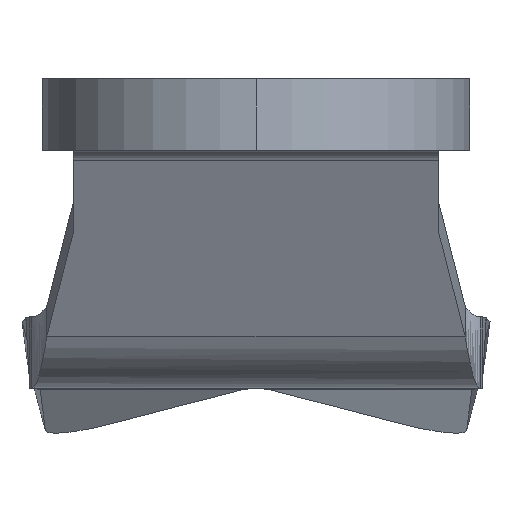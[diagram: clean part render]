
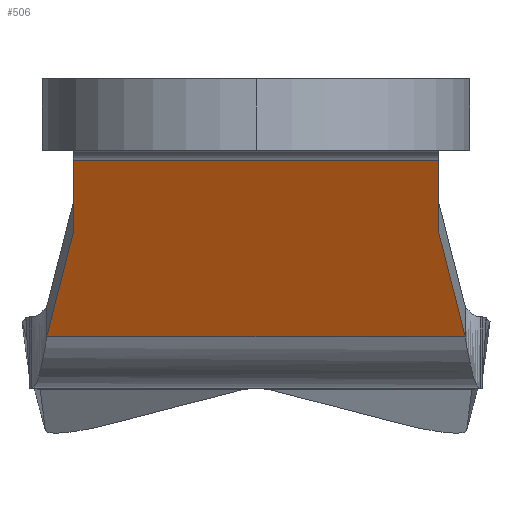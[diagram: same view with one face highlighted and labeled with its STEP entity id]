
A CAD part, left-side view. The second image highlights one B-rep face of the part: STEP entity #506.
In plain terms, the highlighted planar face has unit normal (-0.906, 0, -0.423).
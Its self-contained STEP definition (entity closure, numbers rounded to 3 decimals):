
#374 = VERTEX_POINT ( 'NONE', #1204 ) ;
#409 = EDGE_CURVE ( 'NONE', #410, #374, #1278, .T. ) ;
#410 = VERTEX_POINT ( 'NONE', #1274 ) ;
#414 = VERTEX_POINT ( 'NONE', #1263 ) ;
#450 = EDGE_CURVE ( 'NONE', #526, #478, #1350, .T. ) ;
#451 = EDGE_LOOP ( 'NONE', ( #507, #508, #511, #513, #514, #515 ) ) ;
#477 = EDGE_CURVE ( 'NONE', #478, #414, #1367, .T. ) ;
#478 = VERTEX_POINT ( 'NONE', #1360 ) ;
#481 = EDGE_CURVE ( 'NONE', #414, #374, #1359, .T. ) ;
#506 = ADVANCED_FACE ( 'NONE', ( #1427 ), #1410, .F. ) ;
#507 = ORIENTED_EDGE ( 'NONE', *, *, #450, .F. ) ;
#508 = ORIENTED_EDGE ( 'NONE', *, *, #509, .T. ) ;
#509 = EDGE_CURVE ( 'NONE', #526, #510, #1455, .T. ) ;
#510 = VERTEX_POINT ( 'NONE', #1451 ) ;
#511 = ORIENTED_EDGE ( 'NONE', *, *, #512, .F. ) ;
#512 = EDGE_CURVE ( 'NONE', #410, #510, #1450, .T. ) ;
#513 = ORIENTED_EDGE ( 'NONE', *, *, #409, .T. ) ;
#514 = ORIENTED_EDGE ( 'NONE', *, *, #481, .F. ) ;
#515 = ORIENTED_EDGE ( 'NONE', *, *, #477, .F. ) ;
#526 = VERTEX_POINT ( 'NONE', #1434 ) ;
#1204 = CARTESIAN_POINT ( 'NONE',  ( 14.768, -7.684, -0.425 ) ) ;
#1263 = CARTESIAN_POINT ( 'NONE',  ( 14.768, 7.684, -0.425 ) ) ;
#1274 = CARTESIAN_POINT ( 'NONE',  ( 16.203, -7.684, -3.503 ) ) ;
#1275 = DIRECTION ( 'NONE',  ( -0.423, 0., 0.906 ) ) ;
#1276 = VECTOR ( 'NONE', #1275, 1000. ) ;
#1277 = CARTESIAN_POINT ( 'NONE',  ( 16.203, -7.684, -3.503 ) ) ;
#1278 = LINE ( 'NONE', #1277, #1276 ) ;
#1347 = DIRECTION ( 'NONE',  ( -0.412, -0.225, 0.883 ) ) ;
#1348 = VECTOR ( 'NONE', #1347, 1000. ) ;
#1349 = CARTESIAN_POINT ( 'NONE',  ( 15.421, 7.256, -1.826 ) ) ;
#1350 = LINE ( 'NONE', #1349, #1348 ) ;
#1356 = DIRECTION ( 'NONE',  ( 0., -1., 0. ) ) ;
#1357 = VECTOR ( 'NONE', #1356, 1000. ) ;
#1358 = CARTESIAN_POINT ( 'NONE',  ( 14.768, 0., -0.425 ) ) ;
#1359 = LINE ( 'NONE', #1358, #1357 ) ;
#1360 = CARTESIAN_POINT ( 'NONE',  ( 16.203, 7.684, -3.503 ) ) ;
#1361 = DIRECTION ( 'NONE',  ( -0.423, 0., 0.906 ) ) ;
#1362 = VECTOR ( 'NONE', #1361, 1000. ) ;
#1363 = CARTESIAN_POINT ( 'NONE',  ( 16.203, 7.684, -3.503 ) ) ;
#1367 = LINE ( 'NONE', #1363, #1362 ) ;
#1410 = PLANE ( 'NONE',  #1463 ) ;
#1427 = FACE_OUTER_BOUND ( 'NONE', #451, .T. ) ;
#1434 = CARTESIAN_POINT ( 'NONE',  ( 18.226, 8.789, -7.843 ) ) ;
#1447 = DIRECTION ( 'NONE',  ( 0.412, -0.225, -0.883 ) ) ;
#1448 = VECTOR ( 'NONE', #1447, 1000. ) ;
#1449 = CARTESIAN_POINT ( 'NONE',  ( 15.421, -7.256, -1.826 ) ) ;
#1450 = LINE ( 'NONE', #1449, #1448 ) ;
#1451 = CARTESIAN_POINT ( 'NONE',  ( 18.226, -8.789, -7.843 ) ) ;
#1452 = DIRECTION ( 'NONE',  ( 0., -1., 0. ) ) ;
#1453 = VECTOR ( 'NONE', #1452, 1000. ) ;
#1454 = CARTESIAN_POINT ( 'NONE',  ( 18.226, 0., -7.843 ) ) ;
#1455 = LINE ( 'NONE', #1454, #1453 ) ;
#1456 = DIRECTION ( 'NONE',  ( 0.423, 0., -0.906 ) ) ;
#1457 = DIRECTION ( 'NONE',  ( 0.906, 0., 0.423 ) ) ;
#1458 = CARTESIAN_POINT ( 'NONE',  ( 7.657, 0., 14.823 ) ) ;
#1463 = AXIS2_PLACEMENT_3D ( 'NONE', #1458, #1457, #1456 ) ;
